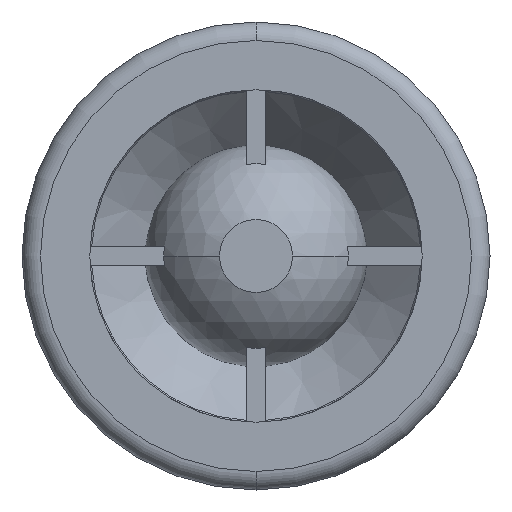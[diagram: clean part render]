
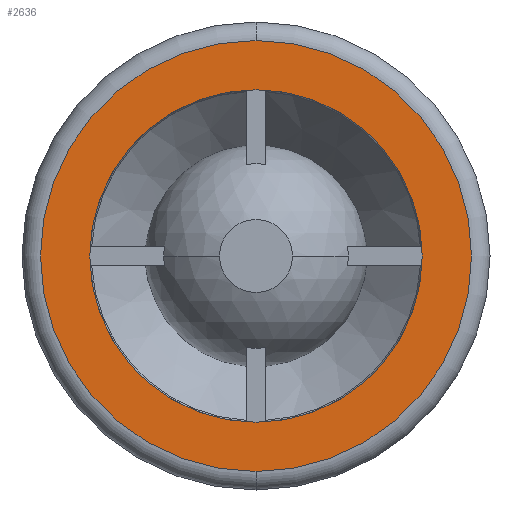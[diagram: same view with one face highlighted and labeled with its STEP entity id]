
A CAD part, front view. The second image highlights one B-rep face of the part: STEP entity #2636.
In plain terms, the highlighted planar face has unit normal (0, -1, 0).
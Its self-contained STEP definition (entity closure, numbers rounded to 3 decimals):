
#265 = EDGE_CURVE ( 'NONE', #291, #267, #941, .T. ) ;
#267 = VERTEX_POINT ( 'NONE', #931 ) ;
#291 = VERTEX_POINT ( 'NONE', #951 ) ;
#303 = EDGE_CURVE ( 'NONE', #267, #291, #988, .T. ) ;
#931 = CARTESIAN_POINT ( 'NONE',  ( 0., 0., -13.5 ) ) ;
#937 = DIRECTION ( 'NONE',  ( 0., 0., -1. ) ) ;
#938 = DIRECTION ( 'NONE',  ( 0., -1., 0. ) ) ;
#939 = CARTESIAN_POINT ( 'NONE',  ( 0., 0., 0. ) ) ;
#940 = AXIS2_PLACEMENT_3D ( 'NONE', #939, #938, #937 ) ;
#941 = CIRCLE ( 'NONE', #940, 13.5 ) ;
#951 = CARTESIAN_POINT ( 'NONE',  ( 0., 0., 13.5 ) ) ;
#984 = DIRECTION ( 'NONE',  ( 0., 0., -1. ) ) ;
#985 = DIRECTION ( 'NONE',  ( 0., -1., 0. ) ) ;
#986 = CARTESIAN_POINT ( 'NONE',  ( 0., 0., 0. ) ) ;
#987 = AXIS2_PLACEMENT_3D ( 'NONE', #986, #985, #984 ) ;
#988 = CIRCLE ( 'NONE', #987, 13.5 ) ;
#1728 = CARTESIAN_POINT ( 'NONE',  ( 0., 0., 17.5 ) ) ;
#1730 = CARTESIAN_POINT ( 'NONE',  ( 0., 0., -17.5 ) ) ;
#1759 = DIRECTION ( 'NONE',  ( 0., 0., 1. ) ) ;
#1760 = DIRECTION ( 'NONE',  ( 0., -1., 0. ) ) ;
#1761 = CARTESIAN_POINT ( 'NONE',  ( 0., 0., 0. ) ) ;
#1762 = AXIS2_PLACEMENT_3D ( 'NONE', #1761, #1760, #1759 ) ;
#1763 = CIRCLE ( 'NONE', #1762, 17.5 ) ;
#1800 = DIRECTION ( 'NONE',  ( 0., 1., 0. ) ) ;
#1801 = CARTESIAN_POINT ( 'NONE',  ( -13.5, 0., 0. ) ) ;
#1802 = AXIS2_PLACEMENT_3D ( 'NONE', #1801, #1800, #1863 ) ;
#1803 = PLANE ( 'NONE',  #1802 ) ;
#1804 = FACE_BOUND ( 'NONE', #2627, .T. ) ;
#1805 = FACE_OUTER_BOUND ( 'NONE', #2631, .T. ) ;
#1817 = DIRECTION ( 'NONE',  ( 0., 0., 1. ) ) ;
#1818 = DIRECTION ( 'NONE',  ( 0., -1., 0. ) ) ;
#1819 = AXIS2_PLACEMENT_3D ( 'NONE', #1826, #1818, #1817 ) ;
#1820 = CIRCLE ( 'NONE', #1819, 17.5 ) ;
#1826 = CARTESIAN_POINT ( 'NONE',  ( 0., 0., 0. ) ) ;
#1863 = DIRECTION ( 'NONE',  ( 0., 0., 1. ) ) ;
#2585 = VERTEX_POINT ( 'NONE', #1728 ) ;
#2586 = VERTEX_POINT ( 'NONE', #1730 ) ;
#2593 = EDGE_CURVE ( 'NONE', #2586, #2585, #1763, .T. ) ;
#2624 = ORIENTED_EDGE ( 'NONE', *, *, #303, .F. ) ;
#2625 = EDGE_CURVE ( 'NONE', #2585, #2586, #1820, .T. ) ;
#2627 = EDGE_LOOP ( 'NONE', ( #2624, #2635 ) ) ;
#2631 = EDGE_LOOP ( 'NONE', ( #2637, #2640 ) ) ;
#2635 = ORIENTED_EDGE ( 'NONE', *, *, #265, .F. ) ;
#2636 = ADVANCED_FACE ( 'NONE', ( #1805, #1804 ), #1803, .F. ) ;
#2637 = ORIENTED_EDGE ( 'NONE', *, *, #2625, .T. ) ;
#2640 = ORIENTED_EDGE ( 'NONE', *, *, #2593, .T. ) ;
